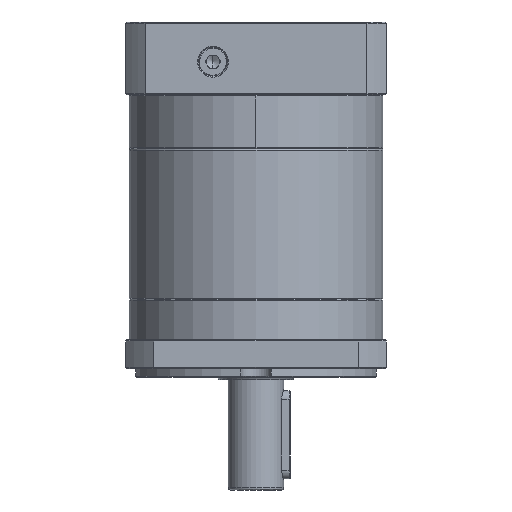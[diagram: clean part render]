
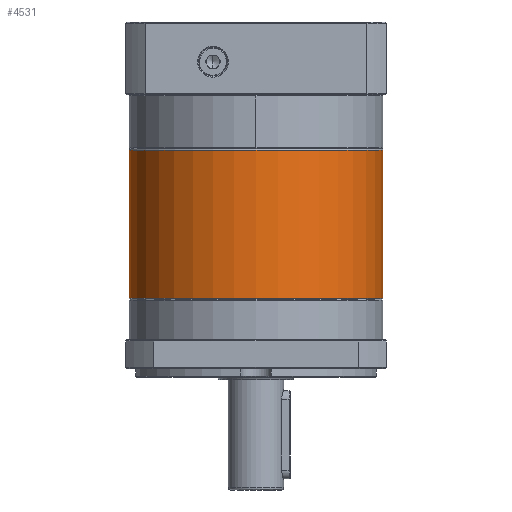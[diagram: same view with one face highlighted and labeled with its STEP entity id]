
A CAD part, front view. The second image highlights one B-rep face of the part: STEP entity #4531.
In plain terms, the highlighted cylindrical face has radius 57.5 mm (diameter 115 mm), a partial arc.
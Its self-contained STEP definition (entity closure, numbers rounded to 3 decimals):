
#978 = FACE_OUTER_BOUND ( 'NONE', #18706, .T. ) ;
#2513 = CARTESIAN_POINT ( 'NONE',  ( -32.033, -59.782, 188.502 ) ) ;
#3138 = LINE ( 'NONE', #73596, #14332 ) ;
#4531 = ADVANCED_FACE ( 'NONE', ( #978 ), #98603, .T. ) ;
#6481 = EDGE_CURVE ( 'NONE', #31192, #69501, #43194, .T. ) ;
#6661 = DIRECTION ( 'NONE',  ( 0., 0., -1. ) ) ;
#12330 = DIRECTION ( 'NONE',  ( 0., 0., -1. ) ) ;
#14147 = CARTESIAN_POINT ( 'NONE',  ( -89.533, -2.282, 121.291 ) ) ;
#14332 = VECTOR ( 'NONE', #12330, 1000. ) ;
#14664 = EDGE_CURVE ( 'NONE', #50385, #54757, #36926, .T. ) ;
#16111 = CARTESIAN_POINT ( 'NONE',  ( 25.467, -2.282, 188.502 ) ) ;
#18706 = EDGE_LOOP ( 'NONE', ( #41724, #43582, #72818, #40477, #131062 ) ) ;
#19221 = DIRECTION ( 'NONE',  ( 0., 0., -1. ) ) ;
#19679 = CARTESIAN_POINT ( 'NONE',  ( -32.033, -2.282, 188.502 ) ) ;
#25197 = LINE ( 'NONE', #81103, #100416 ) ;
#28073 = EDGE_CURVE ( 'NONE', #84879, #50385, #65253, .T. ) ;
#31192 = VERTEX_POINT ( 'NONE', #14147 ) ;
#34747 = CARTESIAN_POINT ( 'NONE',  ( -32.033, -2.282, 121.291 ) ) ;
#36926 = CIRCLE ( 'NONE', #124812, 57.5 ) ;
#37055 = CARTESIAN_POINT ( 'NONE',  ( -32.033, -2.282, 188.502 ) ) ;
#40477 = ORIENTED_EDGE ( 'NONE', *, *, #129309, .T. ) ;
#41724 = ORIENTED_EDGE ( 'NONE', *, *, #63898, .F. ) ;
#41942 = AXIS2_PLACEMENT_3D ( 'NONE', #19679, #19221, #59432 ) ;
#43194 = CIRCLE ( 'NONE', #77465, 57.5 ) ;
#43582 = ORIENTED_EDGE ( 'NONE', *, *, #28073, .T. ) ;
#50385 = VERTEX_POINT ( 'NONE', #2513 ) ;
#54428 = DIRECTION ( 'NONE',  ( 0., 0., 1. ) ) ;
#54757 = VERTEX_POINT ( 'NONE', #130372 ) ;
#59432 = DIRECTION ( 'NONE',  ( -1., 0., 0. ) ) ;
#63898 = EDGE_CURVE ( 'NONE', #84879, #69501, #25197, .T. ) ;
#65253 = CIRCLE ( 'NONE', #41942, 57.5 ) ;
#66044 = DIRECTION ( 'NONE',  ( -1., 0., 0. ) ) ;
#69501 = VERTEX_POINT ( 'NONE', #105506 ) ;
#72818 = ORIENTED_EDGE ( 'NONE', *, *, #14664, .T. ) ;
#73596 = CARTESIAN_POINT ( 'NONE',  ( -89.533, -2.282, 189.002 ) ) ;
#77465 = AXIS2_PLACEMENT_3D ( 'NONE', #34747, #54428, #66044 ) ;
#81103 = CARTESIAN_POINT ( 'NONE',  ( 25.467, -2.282, 189.002 ) ) ;
#84879 = VERTEX_POINT ( 'NONE', #16111 ) ;
#87666 = DIRECTION ( 'NONE',  ( -1., 0., 0. ) ) ;
#88886 = DIRECTION ( 'NONE',  ( -1., 0., 0. ) ) ;
#98603 = CYLINDRICAL_SURFACE ( 'NONE', #105548, 57.5 ) ;
#100319 = DIRECTION ( 'NONE',  ( 0., 0., -1. ) ) ;
#100416 = VECTOR ( 'NONE', #100319, 1000. ) ;
#105506 = CARTESIAN_POINT ( 'NONE',  ( 25.467, -2.282, 121.291 ) ) ;
#105548 = AXIS2_PLACEMENT_3D ( 'NONE', #118374, #129119, #88886 ) ;
#118374 = CARTESIAN_POINT ( 'NONE',  ( -32.033, -2.282, 189.002 ) ) ;
#124812 = AXIS2_PLACEMENT_3D ( 'NONE', #37055, #6661, #87666 ) ;
#129119 = DIRECTION ( 'NONE',  ( 0., 0., -1. ) ) ;
#129309 = EDGE_CURVE ( 'NONE', #54757, #31192, #3138, .T. ) ;
#130372 = CARTESIAN_POINT ( 'NONE',  ( -89.533, -2.282, 188.502 ) ) ;
#131062 = ORIENTED_EDGE ( 'NONE', *, *, #6481, .T. ) ;
